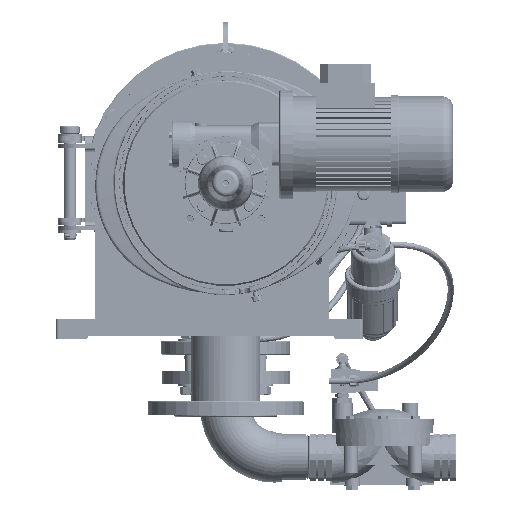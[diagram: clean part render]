
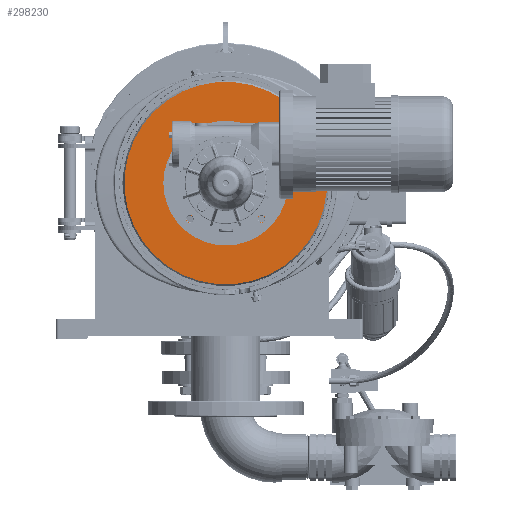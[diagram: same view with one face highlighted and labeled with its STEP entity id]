
A CAD part, left-side view. The second image highlights one B-rep face of the part: STEP entity #298230.
In plain terms, the highlighted planar face has unit normal (-1, 0, 0).
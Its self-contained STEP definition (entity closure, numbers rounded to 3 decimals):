
#12840 = ORIENTED_EDGE ( 'NONE', *, *, #361501, .T. ) ;
#15179 = CARTESIAN_POINT ( 'NONE',  ( -711.477, -63.524, 128.979 ) ) ;
#19404 = CARTESIAN_POINT ( 'NONE',  ( -711.477, 25.041, 40.414 ) ) ;
#19805 = VERTEX_POINT ( 'NONE', #319255 ) ;
#20163 = DIRECTION ( 'NONE',  ( 1., 0., 0. ) ) ;
#36362 = EDGE_LOOP ( 'NONE', ( #102616 ) ) ;
#40013 = EDGE_CURVE ( 'NONE', #845554, #845554, #328004, .T. ) ;
#55063 = DIRECTION ( 'NONE',  ( -1., 0., 0. ) ) ;
#87331 = EDGE_LOOP ( 'NONE', ( #491476 ) ) ;
#102616 = ORIENTED_EDGE ( 'NONE', *, *, #40013, .T. ) ;
#115068 = ORIENTED_EDGE ( 'NONE', *, *, #932580, .T. ) ;
#117327 = CARTESIAN_POINT ( 'NONE',  ( -711.477, 25.041, 132.338 ) ) ;
#130942 = FACE_OUTER_BOUND ( 'NONE', #846993, .T. ) ;
#132026 = VERTEX_POINT ( 'NONE', #669546 ) ;
#139795 = AXIS2_PLACEMENT_3D ( 'NONE', #978269, #283668, #151370 ) ;
#149669 = VERTEX_POINT ( 'NONE', #296881 ) ;
#151370 = DIRECTION ( 'NONE',  ( 0., -0.707, 0.707 ) ) ;
#152734 = DIRECTION ( 'NONE',  ( 0., -0.707, 0.707 ) ) ;
#163156 = CARTESIAN_POINT ( 'NONE',  ( -711.477, -17.562, 83.017 ) ) ;
#165856 = AXIS2_PLACEMENT_3D ( 'NONE', #15179, #20163, #420771 ) ;
#191724 = EDGE_LOOP ( 'NONE', ( #12840 ) ) ;
#212652 = EDGE_LOOP ( 'NONE', ( #876868 ) ) ;
#228191 = CARTESIAN_POINT ( 'NONE',  ( -711.477, 0.822, 64.632 ) ) ;
#258021 = VERTEX_POINT ( 'NONE', #719388 ) ;
#259214 = EDGE_LOOP ( 'NONE', ( #115068 ) ) ;
#264394 = FACE_BOUND ( 'NONE', #212652, .T. ) ;
#264499 = EDGE_LOOP ( 'NONE', ( #535972 ) ) ;
#269342 = FACE_BOUND ( 'NONE', #87331, .T. ) ;
#283668 = DIRECTION ( 'NONE',  ( 1., 0., 0. ) ) ;
#286120 = CIRCLE ( 'NONE', #139795, 3.75 ) ;
#288121 = FACE_BOUND ( 'NONE', #264499, .T. ) ;
#296881 = CARTESIAN_POINT ( 'NONE',  ( -711.477, -43.195, 62.688 ) ) ;
#298230 = ADVANCED_FACE ( 'NONE', ( #964058, #340419, #288121, #649852, #959077, #264394, #269342, #516349, #130942 ), #440360, .F. ) ;
#301112 = EDGE_CURVE ( 'NONE', #258021, #258021, #338200, .T. ) ;
#311996 = DIRECTION ( 'NONE',  ( 1., 0., 0. ) ) ;
#319255 = CARTESIAN_POINT ( 'NONE',  ( -711.477, -28.626, 117.061 ) ) ;
#320974 = AXIS2_PLACEMENT_3D ( 'NONE', #163156, #472604, #401468 ) ;
#321466 = AXIS2_PLACEMENT_3D ( 'NONE', #423972, #662186, #657231 ) ;
#323439 = CARTESIAN_POINT ( 'NONE',  ( -711.477, 28.399, 128.979 ) ) ;
#328004 = CIRCLE ( 'NONE', #165856, 4.75 ) ;
#334863 = ORIENTED_EDGE ( 'NONE', *, *, #829722, .F. ) ;
#338200 = CIRCLE ( 'NONE', #775370, 4.75 ) ;
#340419 = FACE_BOUND ( 'NONE', #36362, .T. ) ;
#341076 = AXIS2_PLACEMENT_3D ( 'NONE', #323439, #485740, #480750 ) ;
#361501 = EDGE_CURVE ( 'NONE', #771954, #771954, #845036, .T. ) ;
#379424 = CARTESIAN_POINT ( 'NONE',  ( -711.477, 28.399, 37.055 ) ) ;
#382682 = AXIS2_PLACEMENT_3D ( 'NONE', #470286, #460274, #764505 ) ;
#383261 = CARTESIAN_POINT ( 'NONE',  ( -711.477, 13.83, 74.605 ) ) ;
#401468 = DIRECTION ( 'NONE',  ( 0., 0.707, -0.707 ) ) ;
#406825 = EDGE_CURVE ( 'NONE', #19805, #19805, #286120, .T. ) ;
#418105 = CIRCLE ( 'NONE', #320974, 130. ) ;
#420771 = DIRECTION ( 'NONE',  ( 0., -0.707, 0.707 ) ) ;
#423972 = CARTESIAN_POINT ( 'NONE',  ( -711.477, -40.543, 60.036 ) ) ;
#440360 = PLANE ( 'NONE',  #382682 ) ;
#445478 = CARTESIAN_POINT ( 'NONE',  ( -711.477, -66.883, 132.338 ) ) ;
#454147 = CIRCLE ( 'NONE', #341076, 4.75 ) ;
#460274 = DIRECTION ( 'NONE',  ( 1., 0., 0. ) ) ;
#468552 = EDGE_LOOP ( 'NONE', ( #513647 ) ) ;
#470286 = CARTESIAN_POINT ( 'NONE',  ( -711.477, -109.486, -8.907 ) ) ;
#472151 = CARTESIAN_POINT ( 'NONE',  ( -711.477, -63.524, 37.055 ) ) ;
#472604 = DIRECTION ( 'NONE',  ( -1., 0., 0. ) ) ;
#480750 = DIRECTION ( 'NONE',  ( 0., -0.707, 0.707 ) ) ;
#485740 = DIRECTION ( 'NONE',  ( 1., 0., 0. ) ) ;
#491476 = ORIENTED_EDGE ( 'NONE', *, *, #949831, .T. ) ;
#502725 = VERTEX_POINT ( 'NONE', #117327 ) ;
#513647 = ORIENTED_EDGE ( 'NONE', *, *, #943399, .T. ) ;
#516349 = FACE_BOUND ( 'NONE', #894214, .T. ) ;
#535972 = ORIENTED_EDGE ( 'NONE', *, *, #406825, .T. ) ;
#598058 = ORIENTED_EDGE ( 'NONE', *, *, #711545, .T. ) ;
#641854 = AXIS2_PLACEMENT_3D ( 'NONE', #806007, #55063, #973303 ) ;
#649852 = FACE_BOUND ( 'NONE', #191724, .T. ) ;
#650540 = AXIS2_PLACEMENT_3D ( 'NONE', #383261, #311996, #763499 ) ;
#657231 = DIRECTION ( 'NONE',  ( 0., -0.707, 0.707 ) ) ;
#662186 = DIRECTION ( 'NONE',  ( 1., 0., 0. ) ) ;
#669546 = CARTESIAN_POINT ( 'NONE',  ( -711.477, 74.361, -8.907 ) ) ;
#688566 = DIRECTION ( 'NONE',  ( 0., -0.707, 0.707 ) ) ;
#711545 = EDGE_CURVE ( 'NONE', #132026, #132026, #418105, .T. ) ;
#719388 = CARTESIAN_POINT ( 'NONE',  ( -711.477, -66.883, 40.414 ) ) ;
#749710 = DIRECTION ( 'NONE',  ( 1., 0., 0. ) ) ;
#758738 = CIRCLE ( 'NONE', #321466, 3.75 ) ;
#763499 = DIRECTION ( 'NONE',  ( 0., -0.707, 0.707 ) ) ;
#764505 = DIRECTION ( 'NONE',  ( 0., -0.707, 0.707 ) ) ;
#771954 = VERTEX_POINT ( 'NONE', #776894 ) ;
#775370 = AXIS2_PLACEMENT_3D ( 'NONE', #472151, #999798, #152734 ) ;
#776894 = CARTESIAN_POINT ( 'NONE',  ( -711.477, 11.178, 77.257 ) ) ;
#790308 = VERTEX_POINT ( 'NONE', #19404 ) ;
#806007 = CARTESIAN_POINT ( 'NONE',  ( -711.477, -17.562, 83.017 ) ) ;
#829722 = EDGE_CURVE ( 'NONE', #831819, #831819, #916960, .T. ) ;
#831819 = VERTEX_POINT ( 'NONE', #228191 ) ;
#845036 = CIRCLE ( 'NONE', #650540, 3.75 ) ;
#845554 = VERTEX_POINT ( 'NONE', #445478 ) ;
#846993 = EDGE_LOOP ( 'NONE', ( #598058 ) ) ;
#872447 = AXIS2_PLACEMENT_3D ( 'NONE', #379424, #749710, #688566 ) ;
#876868 = ORIENTED_EDGE ( 'NONE', *, *, #301112, .T. ) ;
#894214 = EDGE_LOOP ( 'NONE', ( #334863 ) ) ;
#916960 = CIRCLE ( 'NONE', #641854, 26. ) ;
#932580 = EDGE_CURVE ( 'NONE', #502725, #502725, #454147, .T. ) ;
#943399 = EDGE_CURVE ( 'NONE', #790308, #790308, #1002233, .T. ) ;
#949831 = EDGE_CURVE ( 'NONE', #149669, #149669, #758738, .T. ) ;
#959077 = FACE_BOUND ( 'NONE', #468552, .T. ) ;
#964058 = FACE_BOUND ( 'NONE', #259214, .T. ) ;
#973303 = DIRECTION ( 'NONE',  ( 0., 0.707, -0.707 ) ) ;
#978269 = CARTESIAN_POINT ( 'NONE',  ( -711.477, -25.974, 114.41 ) ) ;
#999798 = DIRECTION ( 'NONE',  ( 1., 0., 0. ) ) ;
#1002233 = CIRCLE ( 'NONE', #872447, 4.75 ) ;
